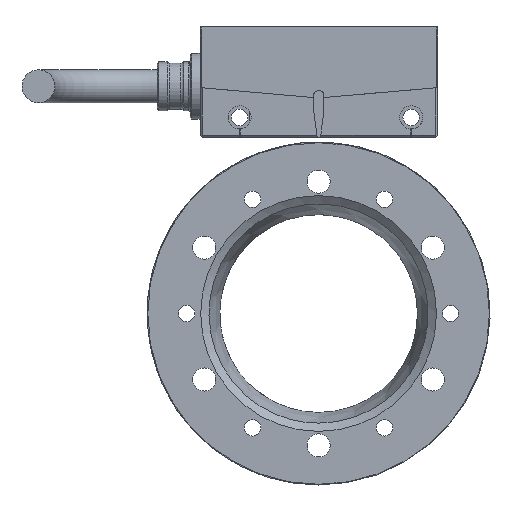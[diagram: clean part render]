
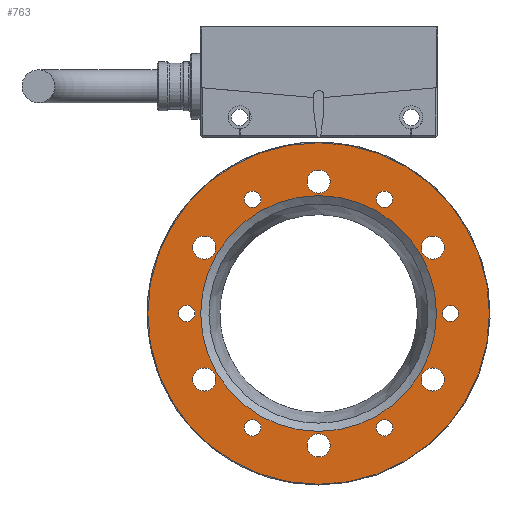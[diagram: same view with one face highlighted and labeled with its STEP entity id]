
A CAD part, front view. The second image highlights one B-rep face of the part: STEP entity #763.
In plain terms, the highlighted planar face has unit normal (0, -1, 0).
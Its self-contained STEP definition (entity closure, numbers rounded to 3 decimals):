
#763=ADVANCED_FACE('',(#2869,#2871,#2873,#2875,#2877,#2879,#2881,#2883,#2885,#2887,
#2889,#2891,#2893,#2895),#2897,.F.);
#2869=FACE_BOUND('',#2870,.T.);
#2870=EDGE_LOOP('',(#4564));
#2871=FACE_BOUND('',#2872,.T.);
#2872=EDGE_LOOP('',(#4565));
#2873=FACE_BOUND('',#2874,.T.);
#2874=EDGE_LOOP('',(#4566));
#2875=FACE_BOUND('',#2876,.T.);
#2876=EDGE_LOOP('',(#4567));
#2877=FACE_BOUND('',#2878,.T.);
#2878=EDGE_LOOP('',(#4568));
#2879=FACE_BOUND('',#2880,.T.);
#2880=EDGE_LOOP('',(#4569));
#2881=FACE_BOUND('',#2882,.T.);
#2882=EDGE_LOOP('',(#4570));
#2883=FACE_BOUND('',#2884,.T.);
#2884=EDGE_LOOP('',(#4571));
#2885=FACE_BOUND('',#2886,.T.);
#2886=EDGE_LOOP('',(#4572));
#2887=FACE_BOUND('',#2888,.T.);
#2888=EDGE_LOOP('',(#4573));
#2889=FACE_BOUND('',#2890,.T.);
#2890=EDGE_LOOP('',(#4574));
#2891=FACE_BOUND('',#2892,.T.);
#2892=EDGE_LOOP('',(#4575));
#2893=FACE_BOUND('',#2894,.T.);
#2894=EDGE_LOOP('',(#4576));
#2895=FACE_BOUND('',#2896,.T.);
#2896=EDGE_LOOP('',(#4577));
#2897=PLANE('',#2898);
#2898=AXIS2_PLACEMENT_3D('',#2899,#2900,#2901);
#2899=CARTESIAN_POINT('',(-17.876,0.,0.));
#2900=DIRECTION('',(0.,1.,0.));
#2901=DIRECTION('',(0.,0.,1.));
#4564=ORIENTED_EDGE('',*,*,#5672,.T.);
#4565=ORIENTED_EDGE('',*,*,#5629,.T.);
#4566=ORIENTED_EDGE('',*,*,#5631,.T.);
#4567=ORIENTED_EDGE('',*,*,#5633,.T.);
#4568=ORIENTED_EDGE('',*,*,#5635,.T.);
#4569=ORIENTED_EDGE('',*,*,#5637,.T.);
#4570=ORIENTED_EDGE('',*,*,#5639,.T.);
#4571=ORIENTED_EDGE('',*,*,#5643,.T.);
#4572=ORIENTED_EDGE('',*,*,#5647,.T.);
#4573=ORIENTED_EDGE('',*,*,#5651,.T.);
#4574=ORIENTED_EDGE('',*,*,#5655,.T.);
#4575=ORIENTED_EDGE('',*,*,#5659,.T.);
#4576=ORIENTED_EDGE('',*,*,#5663,.T.);
#4577=ORIENTED_EDGE('',*,*,#5673,.F.);
#5629=EDGE_CURVE('',#6188,#6188,#6189,.T.);
#5631=EDGE_CURVE('',#6192,#6192,#6193,.T.);
#5633=EDGE_CURVE('',#6196,#6196,#6197,.T.);
#5635=EDGE_CURVE('',#6200,#6200,#6201,.T.);
#5637=EDGE_CURVE('',#6204,#6204,#6205,.T.);
#5639=EDGE_CURVE('',#6208,#6208,#6209,.T.);
#5643=EDGE_CURVE('',#6216,#6216,#6217,.T.);
#5647=EDGE_CURVE('',#6224,#6224,#6225,.T.);
#5651=EDGE_CURVE('',#6232,#6232,#6233,.T.);
#5655=EDGE_CURVE('',#6240,#6240,#6241,.T.);
#5659=EDGE_CURVE('',#6248,#6248,#6249,.T.);
#5663=EDGE_CURVE('',#6256,#6256,#6257,.T.);
#5672=EDGE_CURVE('',#6274,#6274,#6275,.T.);
#5673=EDGE_CURVE('',#6276,#6276,#6277,.T.);
#6188=VERTEX_POINT('',#7160);
#6189=CIRCLE('',#7161,1.25);
#6192=VERTEX_POINT('',#7170);
#6193=CIRCLE('',#7171,1.25);
#6196=VERTEX_POINT('',#7180);
#6197=CIRCLE('',#7181,1.25);
#6200=VERTEX_POINT('',#7190);
#6201=CIRCLE('',#7191,1.25);
#6204=VERTEX_POINT('',#7200);
#6205=CIRCLE('',#7201,1.25);
#6208=VERTEX_POINT('',#7210);
#6209=CIRCLE('',#7211,1.25);
#6216=VERTEX_POINT('',#7230);
#6217=CIRCLE('',#7231,1.75);
#6224=VERTEX_POINT('',#7250);
#6225=CIRCLE('',#7251,1.75);
#6232=VERTEX_POINT('',#7270);
#6233=CIRCLE('',#7271,1.75);
#6240=VERTEX_POINT('',#7290);
#6241=CIRCLE('',#7291,1.75);
#6248=VERTEX_POINT('',#7310);
#6249=CIRCLE('',#7311,1.75);
#6256=VERTEX_POINT('',#7330);
#6257=CIRCLE('',#7331,1.75);
#6274=VERTEX_POINT('',#7779);
#6275=CIRCLE('',#7780,25.9);
#6276=VERTEX_POINT('',#7784);
#6277=CIRCLE('',#7785,17.876);
#7160=CARTESIAN_POINT('',(20.,0.,1.25));
#7161=AXIS2_PLACEMENT_3D('',#7162,#7163,#7164);
#7162=CARTESIAN_POINT('',(20.,0.,0.));
#7163=DIRECTION('',(0.,1.,0.));
#7164=DIRECTION('',(0.,0.,-1.));
#7170=CARTESIAN_POINT('',(10.,0.,18.571));
#7171=AXIS2_PLACEMENT_3D('',#7172,#7173,#7174);
#7172=CARTESIAN_POINT('',(10.,0.,17.321));
#7173=DIRECTION('',(0.,1.,0.));
#7174=DIRECTION('',(0.,0.,-1.));
#7180=CARTESIAN_POINT('',(-10.,0.,18.571));
#7181=AXIS2_PLACEMENT_3D('',#7182,#7183,#7184);
#7182=CARTESIAN_POINT('',(-10.,0.,17.321));
#7183=DIRECTION('',(0.,1.,0.));
#7184=DIRECTION('',(0.,0.,-1.));
#7190=CARTESIAN_POINT('',(-20.,0.,1.25));
#7191=AXIS2_PLACEMENT_3D('',#7192,#7193,#7194);
#7192=CARTESIAN_POINT('',(-20.,0.,0.));
#7193=DIRECTION('',(0.,1.,0.));
#7194=DIRECTION('',(0.,0.,-1.));
#7200=CARTESIAN_POINT('',(-10.,0.,-16.071));
#7201=AXIS2_PLACEMENT_3D('',#7202,#7203,#7204);
#7202=CARTESIAN_POINT('',(-10.,0.,-17.321));
#7203=DIRECTION('',(0.,1.,0.));
#7204=DIRECTION('',(0.,0.,-1.));
#7210=CARTESIAN_POINT('',(10.,0.,-16.071));
#7211=AXIS2_PLACEMENT_3D('',#7212,#7213,#7214);
#7212=CARTESIAN_POINT('',(10.,0.,-17.321));
#7213=DIRECTION('',(0.,1.,0.));
#7214=DIRECTION('',(0.,0.,-1.));
#7230=CARTESIAN_POINT('',(0.,0.,-18.25));
#7231=AXIS2_PLACEMENT_3D('',#7232,#7233,#7234);
#7232=CARTESIAN_POINT('',(0.,0.,-20.));
#7233=DIRECTION('',(0.,1.,0.));
#7234=DIRECTION('',(0.,0.,-1.));
#7250=CARTESIAN_POINT('',(17.321,0.,-8.25));
#7251=AXIS2_PLACEMENT_3D('',#7252,#7253,#7254);
#7252=CARTESIAN_POINT('',(17.321,0.,-10.));
#7253=DIRECTION('',(0.,1.,0.));
#7254=DIRECTION('',(0.,0.,-1.));
#7270=CARTESIAN_POINT('',(17.321,0.,11.75));
#7271=AXIS2_PLACEMENT_3D('',#7272,#7273,#7274);
#7272=CARTESIAN_POINT('',(17.321,0.,10.));
#7273=DIRECTION('',(0.,1.,0.));
#7274=DIRECTION('',(0.,0.,-1.));
#7290=CARTESIAN_POINT('',(0.,0.,21.75));
#7291=AXIS2_PLACEMENT_3D('',#7292,#7293,#7294);
#7292=CARTESIAN_POINT('',(0.,0.,20.));
#7293=DIRECTION('',(0.,1.,0.));
#7294=DIRECTION('',(0.,0.,-1.));
#7310=CARTESIAN_POINT('',(-17.321,0.,11.75));
#7311=AXIS2_PLACEMENT_3D('',#7312,#7313,#7314);
#7312=CARTESIAN_POINT('',(-17.321,0.,10.));
#7313=DIRECTION('',(0.,1.,0.));
#7314=DIRECTION('',(0.,0.,-1.));
#7330=CARTESIAN_POINT('',(-17.321,0.,-8.25));
#7331=AXIS2_PLACEMENT_3D('',#7332,#7333,#7334);
#7332=CARTESIAN_POINT('',(-17.321,0.,-10.));
#7333=DIRECTION('',(0.,1.,0.));
#7334=DIRECTION('',(0.,0.,-1.));
#7779=CARTESIAN_POINT('',(0.,0.,-25.9));
#7780=AXIS2_PLACEMENT_3D('',#7781,#7782,#7783);
#7781=CARTESIAN_POINT('',(0.,0.,0.));
#7782=DIRECTION('',(0.,-1.,0.));
#7783=DIRECTION('',(0.,0.,-1.));
#7784=CARTESIAN_POINT('',(0.,0.,-17.876));
#7785=AXIS2_PLACEMENT_3D('',#7786,#7787,#7788);
#7786=CARTESIAN_POINT('',(0.,0.,0.));
#7787=DIRECTION('',(0.,-1.,0.));
#7788=DIRECTION('',(0.,0.,1.));
